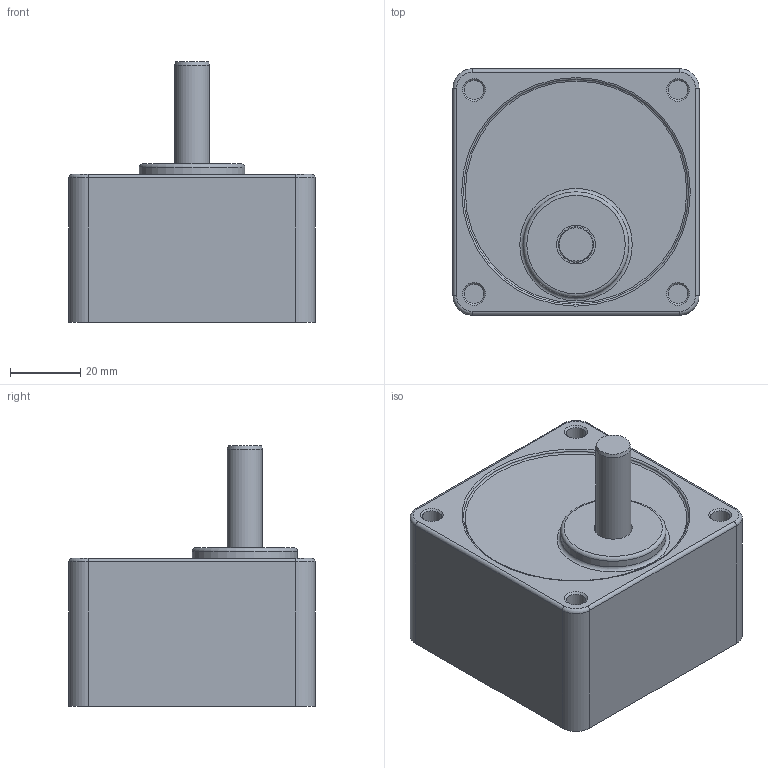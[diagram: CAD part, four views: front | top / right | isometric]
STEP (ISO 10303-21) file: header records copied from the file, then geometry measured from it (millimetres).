
FILE_DESCRIPTION((''),'2;1');
FILE_NAME('D:\STP파일\GEAR HEAD\15W\S7SA20~200.stp','2013-05-20T19:10:17',('leebh'),(''),'Autodesk Inventor 2011','Autodesk Inventor 2011','');
FILE_SCHEMA(('AUTOMOTIVE_DESIGN { 1 0 10303 214 1 1 1 1 }'));
Length unit declared in the file: millimetre
Products named in the file (1): S9I90G-T1
Bounding box: 70 x 70 x 74 mm (x, y, z)
Volume: 186796.2 mm3; surface area: 26078.7 mm2
Topology: 1 solids, 1 shells, 46 faces, 86 edges, 52 vertices
Faces by surface type: cylinder 17, plane 16, torus 8, cone 5
Full cylindrical faces by diameter (mm): 5.5 x4, 7 x1, 10 x1, 11 x1, 30 x1, 64 x1
Entity records: 1086 total; most frequent: DIRECTION 210, CARTESIAN_POINT 167, ORIENTED_EDGE 136, AXIS2_PLACEMENT_3D 95, EDGE_LOOP 74, EDGE_CURVE 68, VERTEX_POINT 52, CIRCLE 48
